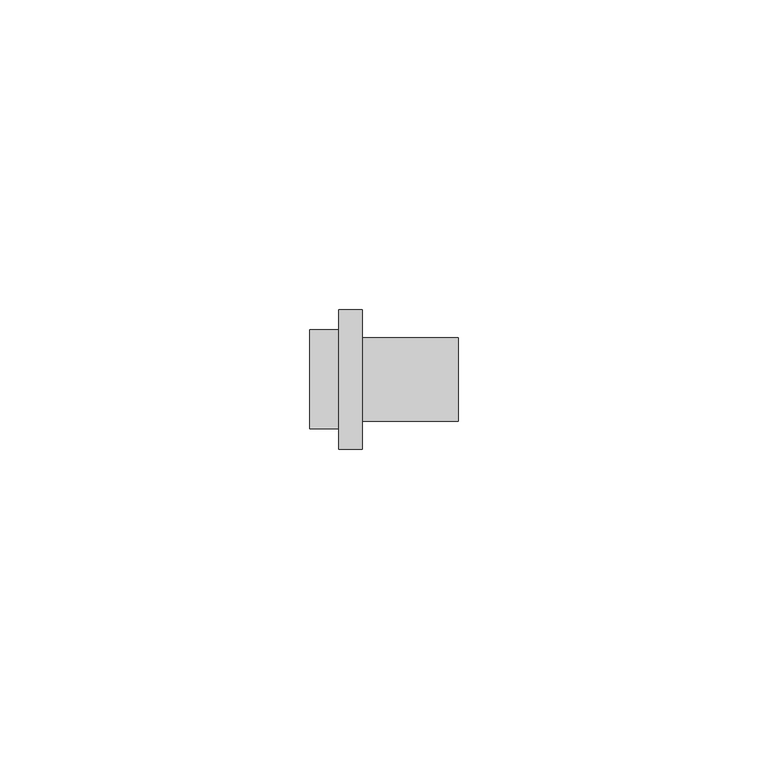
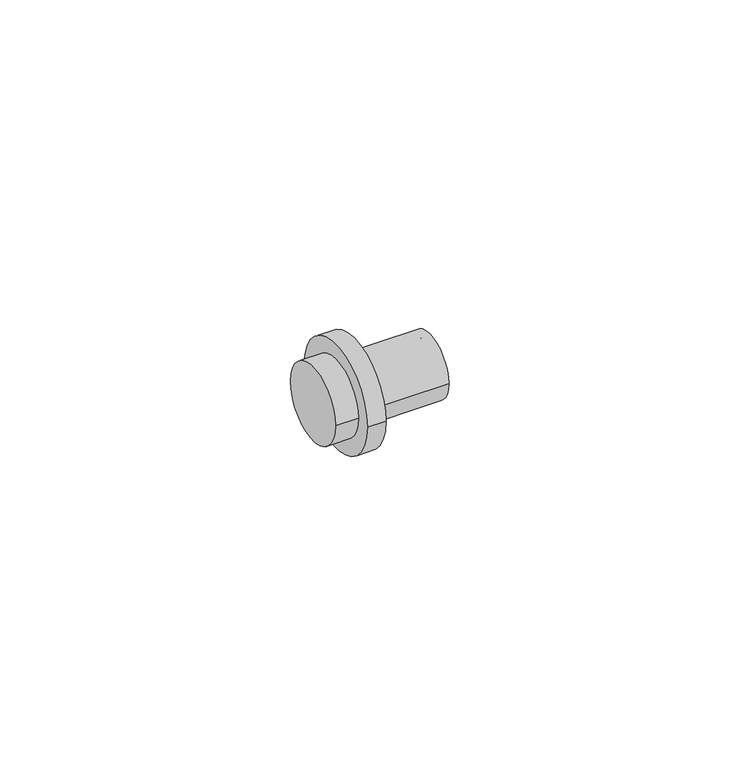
"""IFC4 building model written with IfcOpenShell, lengths in millimetres: pipe fitting geometry, REHAU_RAUTITAN_Dummy_Plug_RX+ : REHAU_RAUTITAN_Dummy_Plug_RX+."""

from ifc_helpers import new_model, si_unit, point, frame, origin, origin_2d, place, context, project, spatial, polyline, circle_curve, trimmed, segment, composite_curve, outline, extrude, source, transform, mapped, element, save
from ifc_brep_helpers import plane_surface, cylinder_surface, revolved_surface, advanced_brep


def pipe_fitting_94e4dc49(model_context):
    return source(origin(), model_context, "Body", "SolidModel", [
        extrude(outline(composite_curve([segment(trimmed(circle_curve(origin_2d(), 8.0), [point((-8.0, 0.0))], [point((8.0, 0.0))], False, "CARTESIAN"), True, "CONTINUOUS"), segment(trimmed(circle_curve(origin_2d(), 8.0), [point((8.0, 0.0))], [point((-8.0, 0.0))], False, "CARTESIAN"), True, "CONTINUOUS")], self_intersect=False)), frame((-4.7, 0.0, 0.0), z_axis=(1.0, 0.0, 0.0), x_axis=(0.0, 1.0, 0.0)), (0.0, 0.0, 1.0), 4.7),
        advanced_brep(
        [(3.8, -11.25, 0.0), (3.8, 11.25, 0.0), (3.8, 4.95, 0.0), (3.8, -4.95, 0.0), (0.0, -11.25, 0.0), (0.0, 11.25, 0.0), (1.3, -4.95, 0.0), (1.3, 4.95, 0.0)],
        [
            (0, 1, circle_curve(frame((3.8, 0.0, 0.0), z_axis=(1.0, 0.0, 0.0), x_axis=(0.0, 1.0, 0.0)), 11.25)),
            (1, 0, circle_curve(frame((3.8, 0.0, 0.0), z_axis=(1.0, 0.0, 0.0), x_axis=(0.0, 1.0, 0.0)), 11.25)),
            (2, 3, circle_curve(frame((3.8, 0.0, 0.0), z_axis=(-1.0, 0.0, 0.0), x_axis=(0.0, 1.0, 0.0)), 4.95)),
            (3, 2, circle_curve(frame((3.8, 0.0, 0.0), z_axis=(-1.0, 0.0, 0.0), x_axis=(0.0, 1.0, 0.0)), 4.95)),
            (4, 5, circle_curve(frame((0.0, 0.0, 0.0), z_axis=(-1.0, 0.0, 0.0), x_axis=(0.0, 1.0, 0.0)), 11.25)),
            (5, 4, circle_curve(frame((0.0, 0.0, 0.0), z_axis=(-1.0, 0.0, 0.0), x_axis=(0.0, 1.0, 0.0)), 11.25)),
            (0, 4),
            (5, 1),
            (6, 7, circle_curve(frame((1.3, 0.0, 0.0), z_axis=(1.0, 0.0, 0.0), x_axis=(0.0, 1.0, 0.0)), 4.95)),
            (7, 6, circle_curve(frame((1.3, 0.0, 0.0), z_axis=(1.0, 0.0, 0.0), x_axis=(0.0, 1.0, 0.0)), 4.95)),
            (6, 3),
            (2, 7),
        ],
        [
            plane_surface(frame((3.8, 11.25, 0.0), z_axis=(1.0, 0.0, 0.0), x_axis=(0.0, 0.0, 1.0))),
            plane_surface(frame((0.0, 11.25, 0.0), z_axis=(-1.0, 0.0, 0.0), x_axis=(0.0, 0.0, -1.0))),
            cylinder_surface(frame((0.0, 0.0, 0.0), z_axis=(1.0, 0.0, 0.0), x_axis=(0.0, 1.0, 0.0)), 11.25),
            plane_surface(frame((1.3, 4.95, 0.0), z_axis=(1.0, 0.0, 0.0), x_axis=(0.0, 0.0, -1.0))),
            revolved_surface(polyline([(3.8, 4.95, 0.0), (1.3, 4.95, 0.0)]), (1.3, 0.0, 0.0), (1.0, 0.0, 0.0)),
        ],
        [
            (0, [[1, 2], [3, 4]]),
            (1, [[5, 6]]),
            (2, [[-1, 7, -6, 8]]),
            (2, [[-2, -8, -5, -7]]),
            (3, [[9, 10]]),
            (4, [[-9, 11, -3, 12]]),
            (4, [[-10, -12, -4, -11]]),
        ],
    ),
        extrude(outline(composite_curve([segment(trimmed(circle_curve(origin_2d(), 6.725), [point((-6.725, 0.0))], [point((6.725, 0.0))], False, "CARTESIAN"), True, "CONTINUOUS"), segment(trimmed(circle_curve(origin_2d(), 6.725), [point((6.725, 0.0))], [point((-6.725, 0.0))], False, "CARTESIAN"), True, "CONTINUOUS")], self_intersect=False), holes=[composite_curve([segment(trimmed(circle_curve(origin_2d(), 4.95), [point((-4.95, 0.0))], [point((4.95, 0.0))], True, "CARTESIAN"), True, "CONTINUOUS"), segment(trimmed(circle_curve(origin_2d(), 4.95), [point((4.95, 0.0))], [point((-4.95, 0.0))], True, "CARTESIAN"), True, "CONTINUOUS")], self_intersect=False)]), frame((1.3, 0.0, 0.0), z_axis=(1.0, 0.0, 0.0), x_axis=(0.0, 1.0, 0.0)), (0.0, 0.0, 1.0), 18.0),
    ])


if __name__ == "__main__":
    model = new_model("IFC4")
    model_context = context("Model", 3, world=origin())
    ifc_project = project(units=[si_unit("LENGTHUNIT", "METRE", prefix="MILLI")], contexts=[model_context])
    site = spatial("IfcSite", under=ifc_project)
    building = spatial("IfcBuilding", under=site)
    placement = place(None, origin())
    pipe_fitting_shape = pipe_fitting_94e4dc49(model_context)
    element("IfcPipeFitting", 1, ObjectType="REHAU_RAUTITAN_Dummy_Plug_RX+ : REHAU_RAUTITAN_Dummy_Plug_RX+", at=placement, inside=building, context=model_context, shape_type="MappedRepresentation", body=[
        mapped(pipe_fitting_shape, transform((0.0, 0.0, 0.0), x_axis=(1.0, 0.0, 0.0), y_axis=(0.0, 1.0, 0.0), z_axis=(0.0, 0.0, 1.0))),
    ])
    save(model, "model.ifc")
